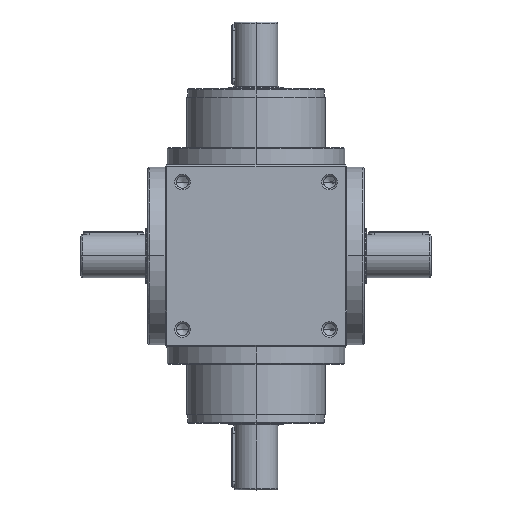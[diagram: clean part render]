
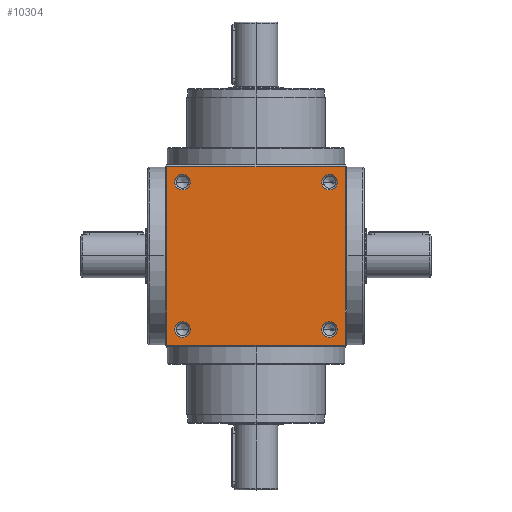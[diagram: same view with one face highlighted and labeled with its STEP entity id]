
A CAD part, top view. The second image highlights one B-rep face of the part: STEP entity #10304.
In plain terms, the highlighted planar face has unit normal (0, 0, 1).
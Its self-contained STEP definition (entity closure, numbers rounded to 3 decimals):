
#311 = CIRCLE ( 'NONE', #14678, 9. ) ;
#617 = VERTEX_POINT ( 'NONE', #8770 ) ;
#632 = VECTOR ( 'NONE', #12842, 1000. ) ;
#1108 = EDGE_CURVE ( 'NONE', #7073, #7489, #311, .T. ) ;
#1195 = CARTESIAN_POINT ( 'NONE',  ( -94., -85., 105. ) ) ;
#1283 = LINE ( 'NONE', #12912, #632 ) ;
#1305 = AXIS2_PLACEMENT_3D ( 'NONE', #13263, #13258, #13244 ) ;
#1585 = ORIENTED_EDGE ( 'NONE', *, *, #13851, .F. ) ;
#1709 = VERTEX_POINT ( 'NONE', #9277 ) ;
#1845 = DIRECTION ( 'NONE',  ( 1., 0., 0. ) ) ;
#1851 = DIRECTION ( 'NONE',  ( 0., 0., 1. ) ) ;
#1866 = CARTESIAN_POINT ( 'NONE',  ( 85., -85., 105. ) ) ;
#2248 = AXIS2_PLACEMENT_3D ( 'NONE', #6915, #6895, #6870 ) ;
#2284 = CARTESIAN_POINT ( 'NONE',  ( -103., 103., 105. ) ) ;
#2442 = AXIS2_PLACEMENT_3D ( 'NONE', #15114, #15076, #15029 ) ;
#2822 = VERTEX_POINT ( 'NONE', #15052 ) ;
#2933 = EDGE_CURVE ( 'NONE', #6073, #10686, #9032, .T. ) ;
#3050 = EDGE_LOOP ( 'NONE', ( #5390, #11478 ) ) ;
#3097 = EDGE_LOOP ( 'NONE', ( #10625, #5162, #1585, #11471 ) ) ;
#3200 = EDGE_CURVE ( 'NONE', #10686, #12533, #13112, .T. ) ;
#3442 = CARTESIAN_POINT ( 'NONE',  ( 85., 85., 105. ) ) ;
#4235 = DIRECTION ( 'NONE',  ( 0., 1., 0. ) ) ;
#4247 = ORIENTED_EDGE ( 'NONE', *, *, #9337, .F. ) ;
#4304 = CARTESIAN_POINT ( 'NONE',  ( -103., 0., 105. ) ) ;
#4539 = AXIS2_PLACEMENT_3D ( 'NONE', #3442, #5691, #6809 ) ;
#4872 = EDGE_CURVE ( 'NONE', #7084, #2822, #14583, .T. ) ;
#4980 = VECTOR ( 'NONE', #7443, 1000. ) ;
#5037 = EDGE_LOOP ( 'NONE', ( #12063, #8539 ) ) ;
#5162 = ORIENTED_EDGE ( 'NONE', *, *, #14676, .F. ) ;
#5313 = CARTESIAN_POINT ( 'NONE',  ( 103., 103., 105. ) ) ;
#5390 = ORIENTED_EDGE ( 'NONE', *, *, #13439, .F. ) ;
#5681 = CARTESIAN_POINT ( 'NONE',  ( -76., 85., 105. ) ) ;
#5682 = AXIS2_PLACEMENT_3D ( 'NONE', #9291, #9237, #8953 ) ;
#5691 = DIRECTION ( 'NONE',  ( 0., 0., 1. ) ) ;
#5716 = VERTEX_POINT ( 'NONE', #10232 ) ;
#5962 = ORIENTED_EDGE ( 'NONE', *, *, #4872, .F. ) ;
#6039 = AXIS2_PLACEMENT_3D ( 'NONE', #1866, #1851, #1845 ) ;
#6067 = VECTOR ( 'NONE', #11455, 1000. ) ;
#6072 = DIRECTION ( 'NONE',  ( 1., 0., 0. ) ) ;
#6073 = VERTEX_POINT ( 'NONE', #6791 ) ;
#6168 = FACE_BOUND ( 'NONE', #8665, .T. ) ;
#6178 = FACE_BOUND ( 'NONE', #15071, .T. ) ;
#6189 = FACE_BOUND ( 'NONE', #5037, .T. ) ;
#6311 = FACE_OUTER_BOUND ( 'NONE', #3097, .T. ) ;
#6604 = DIRECTION ( 'NONE',  ( 0., 0., 1. ) ) ;
#6609 = CARTESIAN_POINT ( 'NONE',  ( -85., 85., 105. ) ) ;
#6791 = CARTESIAN_POINT ( 'NONE',  ( 103., -103., 105. ) ) ;
#6809 = DIRECTION ( 'NONE',  ( 1., 0., 0. ) ) ;
#6870 = DIRECTION ( 'NONE',  ( -1., 0., 0. ) ) ;
#6895 = DIRECTION ( 'NONE',  ( 0., 0., -1. ) ) ;
#6915 = CARTESIAN_POINT ( 'NONE',  ( 0., 0., 105. ) ) ;
#6996 = AXIS2_PLACEMENT_3D ( 'NONE', #15103, #15092, #15068 ) ;
#7032 = PLANE ( 'NONE',  #2248 ) ;
#7048 = ORIENTED_EDGE ( 'NONE', *, *, #7638, .F. ) ;
#7073 = VERTEX_POINT ( 'NONE', #14475 ) ;
#7084 = VERTEX_POINT ( 'NONE', #13376 ) ;
#7443 = DIRECTION ( 'NONE',  ( 0., -1., 0. ) ) ;
#7489 = VERTEX_POINT ( 'NONE', #5681 ) ;
#7638 = EDGE_CURVE ( 'NONE', #2822, #7084, #10318, .T. ) ;
#8000 = FACE_BOUND ( 'NONE', #3050, .T. ) ;
#8241 = CIRCLE ( 'NONE', #1305, 9. ) ;
#8460 = CIRCLE ( 'NONE', #4539, 9. ) ;
#8539 = ORIENTED_EDGE ( 'NONE', *, *, #11650, .F. ) ;
#8665 = EDGE_LOOP ( 'NONE', ( #5962, #7048 ) ) ;
#8770 = CARTESIAN_POINT ( 'NONE',  ( 94., 85., 105. ) ) ;
#8886 = LINE ( 'NONE', #14533, #4980 ) ;
#8953 = DIRECTION ( 'NONE',  ( 1., 0., 0. ) ) ;
#9032 = LINE ( 'NONE', #11080, #6067 ) ;
#9237 = DIRECTION ( 'NONE',  ( 0., 0., 1. ) ) ;
#9277 = CARTESIAN_POINT ( 'NONE',  ( -76., -85., 105. ) ) ;
#9291 = CARTESIAN_POINT ( 'NONE',  ( 85., -85., 105. ) ) ;
#9298 = VERTEX_POINT ( 'NONE', #5313 ) ;
#9337 = EDGE_CURVE ( 'NONE', #12714, #1709, #11560, .T. ) ;
#10232 = CARTESIAN_POINT ( 'NONE',  ( 76., 85., 105. ) ) ;
#10304 = ADVANCED_FACE ( 'NONE', ( #6311, #8000, #6189, #6178, #6168 ), #7032, .F. ) ;
#10318 = CIRCLE ( 'NONE', #5682, 9. ) ;
#10610 = CIRCLE ( 'NONE', #12612, 9. ) ;
#10625 = ORIENTED_EDGE ( 'NONE', *, *, #2933, .F. ) ;
#10686 = VERTEX_POINT ( 'NONE', #10975 ) ;
#10975 = CARTESIAN_POINT ( 'NONE',  ( -103., -103., 105. ) ) ;
#11080 = CARTESIAN_POINT ( 'NONE',  ( 0., -103., 105. ) ) ;
#11287 = VECTOR ( 'NONE', #4235, 1000. ) ;
#11455 = DIRECTION ( 'NONE',  ( -1., 0., 0. ) ) ;
#11471 = ORIENTED_EDGE ( 'NONE', *, *, #3200, .F. ) ;
#11478 = ORIENTED_EDGE ( 'NONE', *, *, #1108, .F. ) ;
#11560 = CIRCLE ( 'NONE', #6996, 9. ) ;
#11650 = EDGE_CURVE ( 'NONE', #5716, #617, #10610, .T. ) ;
#11657 = DIRECTION ( 'NONE',  ( 1., 0., 0. ) ) ;
#11673 = DIRECTION ( 'NONE',  ( 0., 0., 1. ) ) ;
#11688 = CARTESIAN_POINT ( 'NONE',  ( 85., 85., 105. ) ) ;
#12063 = ORIENTED_EDGE ( 'NONE', *, *, #13026, .F. ) ;
#12533 = VERTEX_POINT ( 'NONE', #2284 ) ;
#12612 = AXIS2_PLACEMENT_3D ( 'NONE', #11688, #11673, #11657 ) ;
#12714 = VERTEX_POINT ( 'NONE', #1195 ) ;
#12842 = DIRECTION ( 'NONE',  ( 1., 0., 0. ) ) ;
#12912 = CARTESIAN_POINT ( 'NONE',  ( 0., 103., 105. ) ) ;
#13026 = EDGE_CURVE ( 'NONE', #617, #5716, #8460, .T. ) ;
#13112 = LINE ( 'NONE', #4304, #11287 ) ;
#13244 = DIRECTION ( 'NONE',  ( 1., 0., 0. ) ) ;
#13258 = DIRECTION ( 'NONE',  ( 0., 0., 1. ) ) ;
#13263 = CARTESIAN_POINT ( 'NONE',  ( -85., -85., 105. ) ) ;
#13376 = CARTESIAN_POINT ( 'NONE',  ( 94., -85., 105. ) ) ;
#13439 = EDGE_CURVE ( 'NONE', #7489, #7073, #14271, .T. ) ;
#13695 = EDGE_CURVE ( 'NONE', #1709, #12714, #8241, .T. ) ;
#13851 = EDGE_CURVE ( 'NONE', #12533, #9298, #1283, .T. ) ;
#14271 = CIRCLE ( 'NONE', #2442, 9. ) ;
#14425 = ORIENTED_EDGE ( 'NONE', *, *, #13695, .F. ) ;
#14475 = CARTESIAN_POINT ( 'NONE',  ( -94., 85., 105. ) ) ;
#14533 = CARTESIAN_POINT ( 'NONE',  ( 103., 0., 105. ) ) ;
#14583 = CIRCLE ( 'NONE', #6039, 9. ) ;
#14676 = EDGE_CURVE ( 'NONE', #9298, #6073, #8886, .T. ) ;
#14678 = AXIS2_PLACEMENT_3D ( 'NONE', #6609, #6604, #6072 ) ;
#15029 = DIRECTION ( 'NONE',  ( 1., 0., 0. ) ) ;
#15052 = CARTESIAN_POINT ( 'NONE',  ( 76., -85., 105. ) ) ;
#15068 = DIRECTION ( 'NONE',  ( 1., 0., 0. ) ) ;
#15071 = EDGE_LOOP ( 'NONE', ( #14425, #4247 ) ) ;
#15076 = DIRECTION ( 'NONE',  ( 0., 0., 1. ) ) ;
#15092 = DIRECTION ( 'NONE',  ( 0., 0., 1. ) ) ;
#15103 = CARTESIAN_POINT ( 'NONE',  ( -85., -85., 105. ) ) ;
#15114 = CARTESIAN_POINT ( 'NONE',  ( -85., 85., 105. ) ) ;
